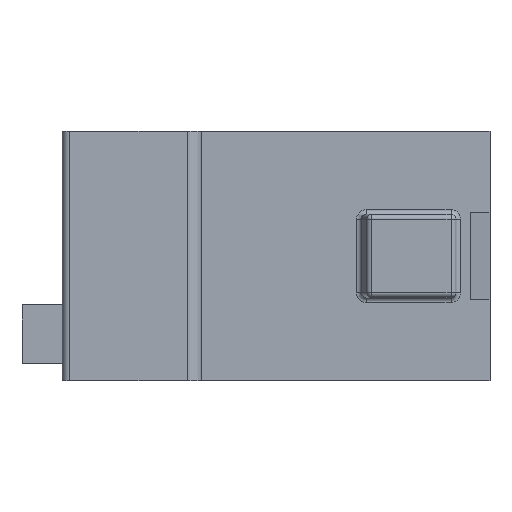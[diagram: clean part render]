
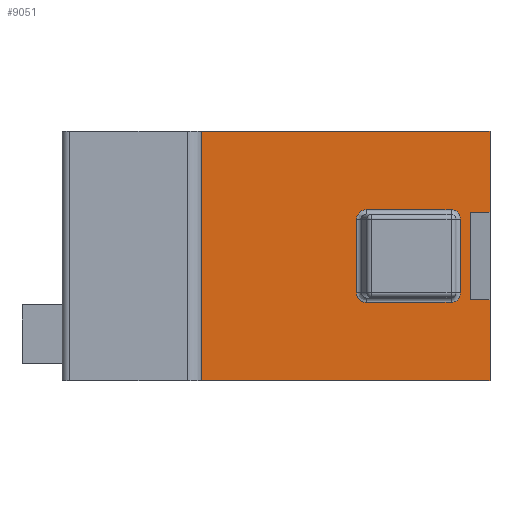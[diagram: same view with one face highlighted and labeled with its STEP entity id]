
A CAD part, front view. The second image highlights one B-rep face of the part: STEP entity #9051.
In plain terms, the highlighted planar face has unit normal (0, -1, 0).
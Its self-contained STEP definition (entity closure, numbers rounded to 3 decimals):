
#185=FACE_BOUND('',#1142,.T.);
#357=CIRCLE('',#9698,2.);
#367=CIRCLE('',#9717,2.);
#568=ELLIPSE('',#9689,2.071,2.);
#570=ELLIPSE('',#9702,2.071,2.);
#604=FACE_OUTER_BOUND('',#1141,.T.);
#1141=EDGE_LOOP('',(#6098,#6099,#6100,#6101,#6102,#6103,#6104,#6105));
#1142=EDGE_LOOP('',(#6106,#6107,#6108,#6109,#6110,#6111,#6112,#6113));
#1727=LINE('',#13088,#2794);
#1730=LINE('',#13094,#2797);
#1734=LINE('',#13101,#2801);
#1735=LINE('',#13185,#2802);
#1744=LINE('',#13221,#2811);
#1752=LINE('',#13240,#2819);
#1756=LINE('',#13246,#2823);
#1759=LINE('',#13257,#2826);
#1760=LINE('',#13258,#2827);
#1761=LINE('',#13260,#2828);
#1762=LINE('',#13262,#2829);
#1763=LINE('',#13263,#2830);
#2794=VECTOR('',#10466,10.);
#2797=VECTOR('',#10471,10.);
#2801=VECTOR('',#10477,10.);
#2802=VECTOR('',#10514,10.);
#2811=VECTOR('',#10557,10.);
#2819=VECTOR('',#10581,10.);
#2823=VECTOR('',#10589,10.);
#2826=VECTOR('',#10604,10.);
#2827=VECTOR('',#10605,10.);
#2828=VECTOR('',#10606,10.);
#2829=VECTOR('',#10607,10.);
#2830=VECTOR('',#10608,10.);
#3861=VERTEX_POINT('',#13086);
#3862=VERTEX_POINT('',#13087);
#3864=VERTEX_POINT('',#13093);
#3866=VERTEX_POINT('',#13099);
#3869=VERTEX_POINT('',#13130);
#3870=VERTEX_POINT('',#13132);
#3876=VERTEX_POINT('',#13146);
#3877=VERTEX_POINT('',#13148);
#3880=VERTEX_POINT('',#13179);
#3881=VERTEX_POINT('',#13181);
#3888=VERTEX_POINT('',#13211);
#3889=VERTEX_POINT('',#13212);
#3895=VERTEX_POINT('',#13255);
#3896=VERTEX_POINT('',#13256);
#3897=VERTEX_POINT('',#13259);
#3898=VERTEX_POINT('',#13261);
#4700=EDGE_CURVE('',#3861,#3862,#1727,.T.);
#4703=EDGE_CURVE('',#3864,#3862,#1730,.T.);
#4707=EDGE_CURVE('',#3864,#3866,#1734,.T.);
#4710=EDGE_CURVE('',#3869,#3870,#568,.T.);
#4717=EDGE_CURVE('',#3876,#3877,#357,.T.);
#4721=EDGE_CURVE('',#3880,#3881,#570,.T.);
#4723=EDGE_CURVE('',#3870,#3880,#1735,.T.);
#4737=EDGE_CURVE('',#3888,#3889,#367,.T.);
#4742=EDGE_CURVE('',#3889,#3876,#1744,.T.);
#4753=EDGE_CURVE('',#3881,#3888,#1752,.T.);
#4757=EDGE_CURVE('',#3877,#3869,#1756,.T.);
#4760=EDGE_CURVE('',#3895,#3896,#1759,.T.);
#4761=EDGE_CURVE('',#3896,#3866,#1760,.T.);
#4762=EDGE_CURVE('',#3897,#3861,#1761,.T.);
#4763=EDGE_CURVE('',#3898,#3897,#1762,.T.);
#4764=EDGE_CURVE('',#3895,#3898,#1763,.T.);
#6098=ORIENTED_EDGE('',*,*,#4760,.T.);
#6099=ORIENTED_EDGE('',*,*,#4761,.T.);
#6100=ORIENTED_EDGE('',*,*,#4707,.F.);
#6101=ORIENTED_EDGE('',*,*,#4703,.T.);
#6102=ORIENTED_EDGE('',*,*,#4700,.F.);
#6103=ORIENTED_EDGE('',*,*,#4762,.F.);
#6104=ORIENTED_EDGE('',*,*,#4763,.F.);
#6105=ORIENTED_EDGE('',*,*,#4764,.F.);
#6106=ORIENTED_EDGE('',*,*,#4737,.F.);
#6107=ORIENTED_EDGE('',*,*,#4753,.F.);
#6108=ORIENTED_EDGE('',*,*,#4721,.F.);
#6109=ORIENTED_EDGE('',*,*,#4723,.F.);
#6110=ORIENTED_EDGE('',*,*,#4710,.F.);
#6111=ORIENTED_EDGE('',*,*,#4757,.F.);
#6112=ORIENTED_EDGE('',*,*,#4717,.F.);
#6113=ORIENTED_EDGE('',*,*,#4742,.F.);
#8595=PLANE('',#9737);
#9051=ADVANCED_FACE('',(#604,#185),#8595,.T.);
#9689=AXIS2_PLACEMENT_3D('',#13133,#10482,#10483);
#9698=AXIS2_PLACEMENT_3D('',#13149,#10500,#10501);
#9702=AXIS2_PLACEMENT_3D('',#13182,#10508,#10509);
#9717=AXIS2_PLACEMENT_3D('',#13213,#10546,#10547);
#9737=AXIS2_PLACEMENT_3D('',#13254,#10602,#10603);
#10466=DIRECTION('',(-1.,0.,0.));
#10471=DIRECTION('',(0.,0.,1.));
#10477=DIRECTION('',(1.,0.,0.));
#10482=DIRECTION('center_axis',(0.,-1.,0.));
#10483=DIRECTION('ref_axis',(-1.,0.,0.));
#10500=DIRECTION('center_axis',(0.,-1.,0.));
#10501=DIRECTION('ref_axis',(0.707,0.,0.707));
#10508=DIRECTION('center_axis',(0.,-1.,0.));
#10509=DIRECTION('ref_axis',(-1.,0.,0.));
#10514=DIRECTION('',(0.,0.,-1.));
#10546=DIRECTION('center_axis',(0.,-1.,0.));
#10547=DIRECTION('ref_axis',(0.707,0.,-0.707));
#10557=DIRECTION('',(0.,0.,1.));
#10581=DIRECTION('',(1.,0.,0.));
#10589=DIRECTION('',(-1.,0.,0.));
#10602=DIRECTION('center_axis',(0.,-1.,0.));
#10603=DIRECTION('ref_axis',(1.,0.,0.));
#10604=DIRECTION('',(1.,0.,0.));
#10605=DIRECTION('',(0.,0.,1.));
#10606=DIRECTION('',(0.,0.,-1.));
#10607=DIRECTION('',(1.,0.,0.));
#10608=DIRECTION('',(0.,0.,1.));
#13086=CARTESIAN_POINT('',(45.,-30.,35.5));
#13087=CARTESIAN_POINT('',(41.,-30.,35.5));
#13088=CARTESIAN_POINT('',(41.,-30.,35.5));
#13093=CARTESIAN_POINT('',(41.,-30.,17.));
#13094=CARTESIAN_POINT('',(41.,-30.,0.));
#13099=CARTESIAN_POINT('',(45.,-30.,17.));
#13101=CARTESIAN_POINT('',(45.,-30.,17.));
#13130=CARTESIAN_POINT('',(19.003,-30.,36.));
#13132=CARTESIAN_POINT('',(16.933,-30.,34.));
#13133=CARTESIAN_POINT('Origin',(19.003,-30.,34.));
#13146=CARTESIAN_POINT('',(38.8,-30.,34.));
#13148=CARTESIAN_POINT('',(36.8,-30.,36.));
#13149=CARTESIAN_POINT('Origin',(36.8,-30.,34.));
#13179=CARTESIAN_POINT('',(16.933,-30.,18.5));
#13181=CARTESIAN_POINT('',(19.003,-30.,16.5));
#13182=CARTESIAN_POINT('Origin',(19.003,-30.,18.5));
#13185=CARTESIAN_POINT('',(16.933,-30.,0.));
#13211=CARTESIAN_POINT('',(36.8,-30.,16.5));
#13212=CARTESIAN_POINT('',(38.8,-30.,18.5));
#13213=CARTESIAN_POINT('Origin',(36.8,-30.,18.5));
#13221=CARTESIAN_POINT('',(38.8,-30.,0.));
#13240=CARTESIAN_POINT('',(24.121,-30.,16.5));
#13246=CARTESIAN_POINT('',(37.8,-30.,36.));
#13254=CARTESIAN_POINT('Origin',(37.8,-30.,0.));
#13255=CARTESIAN_POINT('',(-17.7,-30.,0.));
#13256=CARTESIAN_POINT('',(45.,-30.,0.));
#13257=CARTESIAN_POINT('',(-17.7,-30.,0.));
#13258=CARTESIAN_POINT('',(45.,-30.,0.));
#13259=CARTESIAN_POINT('',(45.,-30.,52.5));
#13260=CARTESIAN_POINT('',(45.,-30.,52.5));
#13261=CARTESIAN_POINT('',(-17.7,-30.,52.5));
#13262=CARTESIAN_POINT('',(-17.7,-30.,52.5));
#13263=CARTESIAN_POINT('',(-17.7,-30.,0.));
